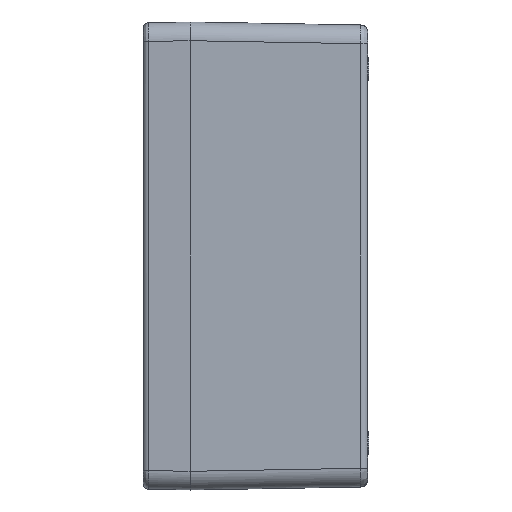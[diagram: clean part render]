
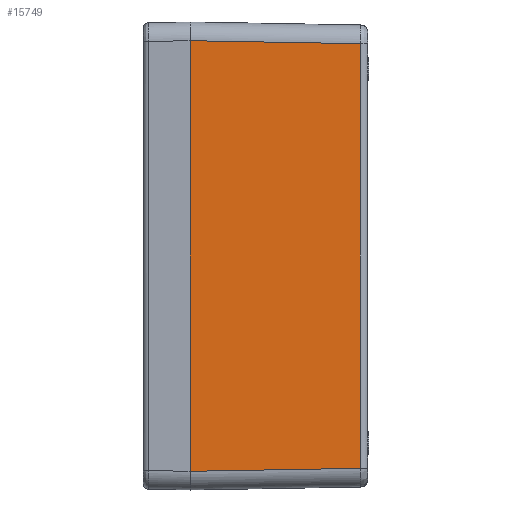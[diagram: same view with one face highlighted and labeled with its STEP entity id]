
A CAD part, left-side view. The second image highlights one B-rep face of the part: STEP entity #15749.
In plain terms, the highlighted planar face has unit normal (-1, -0.018, 0).
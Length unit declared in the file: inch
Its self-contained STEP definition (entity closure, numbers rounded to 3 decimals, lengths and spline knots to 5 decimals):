
#546 = VERTEX_POINT ( 'NONE', #5021 ) ;
#584 = VERTEX_POINT ( 'NONE', #5059 ) ;
#588 = VERTEX_POINT ( 'NONE', #5063 ) ;
#622 = VERTEX_POINT ( 'NONE', #5097 ) ;
#1190 = EDGE_CURVE ( 'NONE', #588, #584, #6383, .T. ) ;
#1334 = EDGE_LOOP ( 'NONE', ( #2111, #2112, #2113, #2114 ) ) ;
#2111 = ORIENTED_EDGE ( 'NONE', *, *, #15291, .T. ) ;
#2112 = ORIENTED_EDGE ( 'NONE', *, *, #15301, .F. ) ;
#2113 = ORIENTED_EDGE ( 'NONE', *, *, #15297, .F. ) ;
#2114 = ORIENTED_EDGE ( 'NONE', *, *, #1190, .T. ) ;
#5021 = CARTESIAN_POINT ( 'NONE',  ( -7.81143, -3.58543, 4.46504 ) ) ;
#5059 = CARTESIAN_POINT ( 'NONE',  ( -7.87402, 0., -4.52762 ) ) ;
#5063 = CARTESIAN_POINT ( 'NONE',  ( -7.87402, 0., 4.52762 ) ) ;
#5097 = CARTESIAN_POINT ( 'NONE',  ( -7.81143, -3.58543, -4.46504 ) ) ;
#6383 = LINE ( 'NONE', #6545, #6392 ) ;
#6392 = VECTOR ( 'NONE', #6546, 39.37008 ) ;
#6545 = CARTESIAN_POINT ( 'NONE',  ( -7.87402, 0., -5.20576 ) ) ;
#6546 = DIRECTION ( 'NONE',  ( 0., 0., -1. ) ) ;
#11800 = LINE ( 'NONE', #12139, #11811 ) ;
#11811 = VECTOR ( 'NONE', #12140, 39.37008 ) ;
#11813 = VECTOR ( 'NONE', #12177, 39.37008 ) ;
#11821 = LINE ( 'NONE', #12176, #11813 ) ;
#11822 = VECTOR ( 'NONE', #12186, 39.37008 ) ;
#11826 = LINE ( 'NONE', #12178, #11822 ) ;
#12139 = CARTESIAN_POINT ( 'NONE',  ( -7.87402, 0., -4.52762 ) ) ;
#12140 = DIRECTION ( 'NONE',  ( 0.017, -1., 0.017 ) ) ;
#12176 = CARTESIAN_POINT ( 'NONE',  ( -7.87457, 0.03196, 4.52818 ) ) ;
#12177 = DIRECTION ( 'NONE',  ( 0.017, -1., -0.017 ) ) ;
#12178 = CARTESIAN_POINT ( 'NONE',  ( -7.81143, -3.58543, 4.57224 ) ) ;
#12186 = DIRECTION ( 'NONE',  ( 0., 0., -1. ) ) ;
#14255 = AXIS2_PLACEMENT_3D ( 'NONE', #14436, #14441, #14442 ) ;
#14346 = FACE_OUTER_BOUND ( 'NONE', #1334, .T. ) ;
#14435 = PLANE ( 'NONE',  #14255 ) ;
#14436 = CARTESIAN_POINT ( 'NONE',  ( -7.87402, 0., -5.20576 ) ) ;
#14441 = DIRECTION ( 'NONE',  ( -1., -0.017, 0. ) ) ;
#14442 = DIRECTION ( 'NONE',  ( 0.017, -1., 0. ) ) ;
#15291 = EDGE_CURVE ( 'NONE', #584, #622, #11800, .T. ) ;
#15297 = EDGE_CURVE ( 'NONE', #588, #546, #11821, .T. ) ;
#15301 = EDGE_CURVE ( 'NONE', #546, #622, #11826, .T. ) ;
#15749 = ADVANCED_FACE ( 'NONE', ( #14346 ), #14435, .T. ) ;
